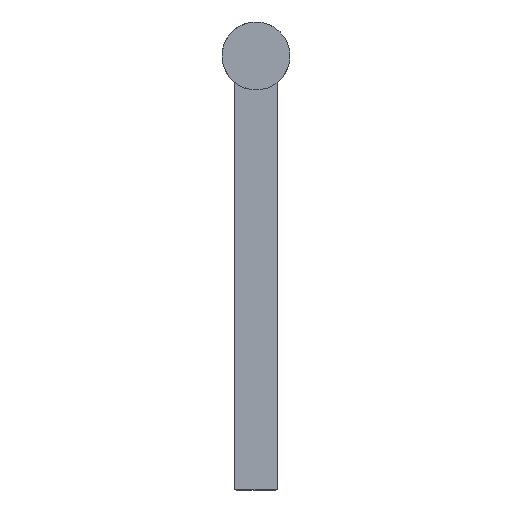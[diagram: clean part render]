
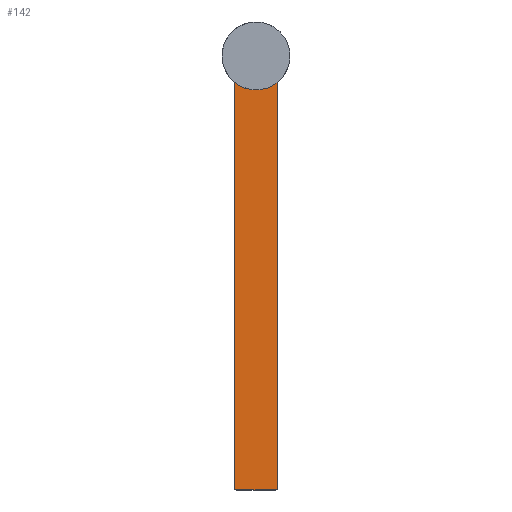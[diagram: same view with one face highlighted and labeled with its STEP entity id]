
A CAD part, top view. The second image highlights one B-rep face of the part: STEP entity #142.
In plain terms, the highlighted planar face has unit normal (0, 0, 1).
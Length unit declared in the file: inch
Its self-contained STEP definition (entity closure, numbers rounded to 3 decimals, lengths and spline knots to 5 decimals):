
#111=FACE_OUTER_BOUND('',#286,.T.);
#142=ADVANCED_FACE('',(#111),#159,.F.);
#159=PLANE('',#555);
#174=LINE('',#853,#191);
#175=LINE('',#855,#192);
#178=LINE('',#861,#195);
#191=VECTOR('',#675,1.);
#192=VECTOR('',#678,1.);
#195=VECTOR('',#683,1.);
#286=EDGE_LOOP('',(#368,#369,#370,#371));
#368=ORIENTED_EDGE('',*,*,#459,.F.);
#369=ORIENTED_EDGE('',*,*,#470,.F.);
#370=ORIENTED_EDGE('',*,*,#474,.F.);
#371=ORIENTED_EDGE('',*,*,#471,.T.);
#417=VERTEX_POINT('',#827);
#418=VERTEX_POINT('',#829);
#426=VERTEX_POINT('',#852);
#427=VERTEX_POINT('',#856);
#459=EDGE_CURVE('',#417,#418,#497,.T.);
#470=EDGE_CURVE('',#426,#417,#174,.T.);
#471=EDGE_CURVE('',#427,#418,#175,.T.);
#474=EDGE_CURVE('',#427,#426,#178,.T.);
#497=CIRCLE('',#543,1.0025);
#543=AXIS2_PLACEMENT_3D('',#828,#649,#650);
#555=AXIS2_PLACEMENT_3D('',#862,#684,#685);
#649=DIRECTION('',(0.,0.,1.));
#650=DIRECTION('',(-1.,0.,0.));
#675=DIRECTION('',(0.,1.,0.));
#678=DIRECTION('',(0.,1.,0.));
#683=DIRECTION('',(-1.,0.,0.));
#684=DIRECTION('',(0.,0.,-1.));
#685=DIRECTION('',(-1.,0.,0.));
#827=CARTESIAN_POINT('',(-0.625,-0.78382,0.));
#828=CARTESIAN_POINT('',(0.,0.,0.));
#829=CARTESIAN_POINT('',(0.625,-0.78382,0.));
#852=CARTESIAN_POINT('',(-0.625,-12.8125,0.));
#853=CARTESIAN_POINT('',(-0.625,-12.8125,0.));
#855=CARTESIAN_POINT('',(0.625,-12.8125,0.));
#856=CARTESIAN_POINT('',(0.625,-12.8125,0.));
#861=CARTESIAN_POINT('',(1.,-12.8125,0.));
#862=CARTESIAN_POINT('',(1.,-12.8125,0.));
